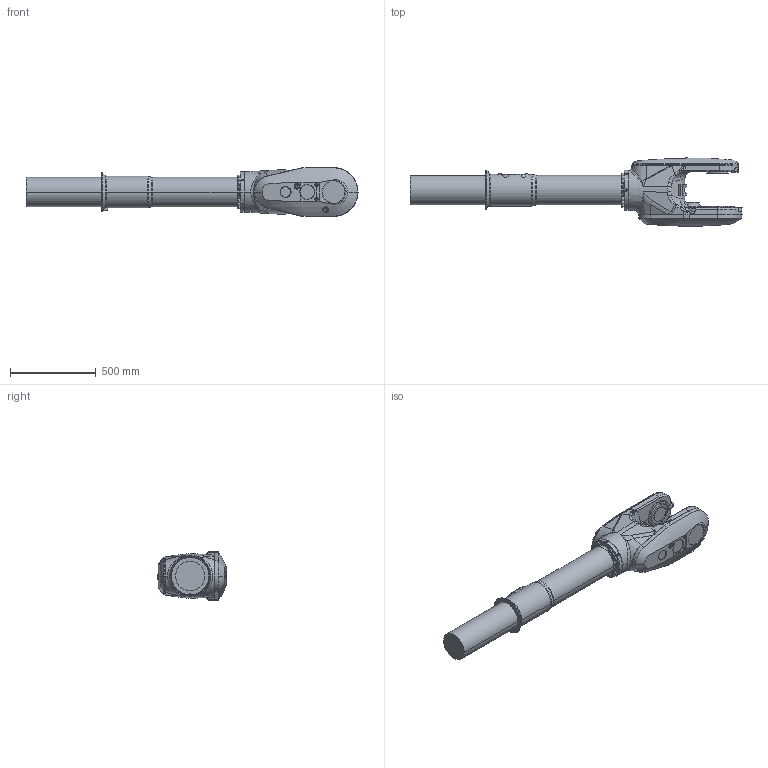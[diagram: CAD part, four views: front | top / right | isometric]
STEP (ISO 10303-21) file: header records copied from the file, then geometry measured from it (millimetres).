
FILE_DESCRIPTION (( 'STEP AP214' ), '1' );
FILE_NAME ('IRB6720-LID_140kg-320_OC_00_LINK04_CAD.step', '2026-06-10T12:10:49', ( '' ), ( '' ), 'SwSTEP 2.0', 'SolidWorks 2024', '' );
FILE_SCHEMA (( 'AUTOMOTIVE_DESIGN' ));
Length unit declared in the file: millimetre
Products named in the file (1): IRB6720-LID_140kg-320_OC_00_LINK04_CAD
Bounding box: 1931.5 x 396.47 x 284 mm (x, y, z)
Volume: 67795267.8 mm3; surface area: 1626818 mm2
Topology: 1 solids, 2 shells, 727 faces, 1804 edges, 1124 vertices
Faces by surface type: plane 307, cylinder 173, cone 122, bspline 90, torus 35
Entity records: 40850 total; most frequent: CARTESIAN_POINT 24820, ORIENTED_EDGE 3560, DIRECTION 3003, EDGE_CURVE 1780, VERTEX_POINT 1124, AXIS2_PLACEMENT_3D 1108, EDGE_LOOP 798, LINE 787
